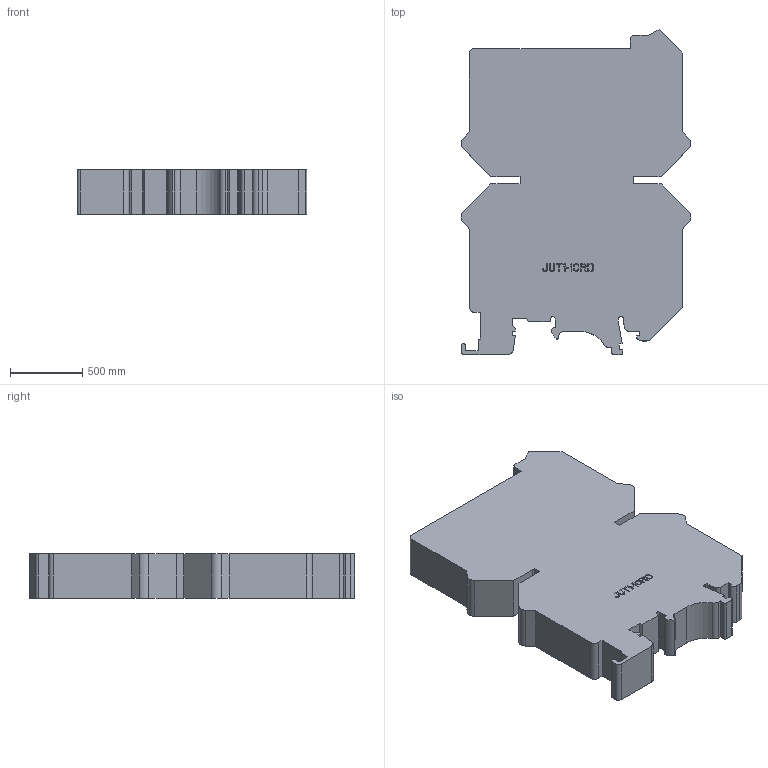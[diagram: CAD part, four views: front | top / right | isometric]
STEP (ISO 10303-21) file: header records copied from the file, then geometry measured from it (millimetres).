
FILE_DESCRIPTION((''),'2;1');
FILE_NAME('PRT0001','2022-04-18T',('Administrator'),(''),'PRO/ENGINEER BY PARAMETRIC TECHNOLOGY CORPORATION, 2008020','PRO/ENGINEER BY PARAMETRIC TECHNOLOGY CORPORATION, 2008020','');
FILE_SCHEMA(('CONFIG_CONTROL_DESIGN'));
Length unit declared in the file: inch
Products named in the file (1): PRT0001
Bounding box: 1592.54 x 2251.22 x 304.8 mm (x, y, z)
Volume: 879716150.7 mm3; surface area: 8785427.7 mm2
Topology: 1 solids, 1 shells, 276 faces, 786 edges, 524 vertices
Faces by surface type: plane 252, cylinder 24
Entity records: 8878 total; most frequent: CARTESIAN_POINT 1586, ORIENTED_EDGE 1572, DIRECTION 1386, EDGE_CURVE 786, VECTOR 738, LINE 738, VERTEX_POINT 524, AXIS2_PLACEMENT_3D 324
